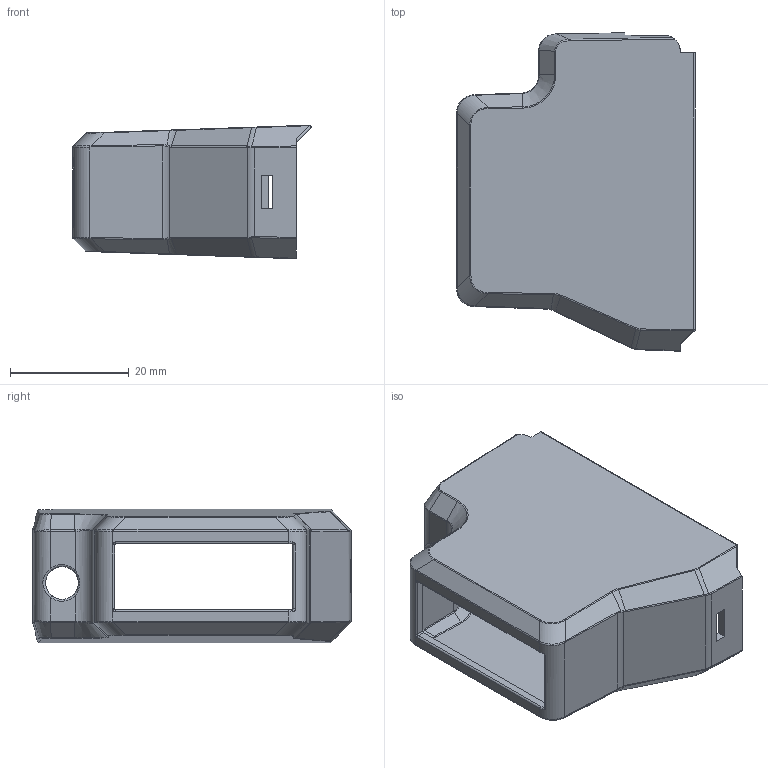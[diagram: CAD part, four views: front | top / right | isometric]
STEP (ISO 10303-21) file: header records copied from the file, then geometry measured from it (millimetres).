
FILE_DESCRIPTION((''),'2;1');
FILE_NAME('3878-0027_RR-BRKOUT-FRONT','2017-01-27T',('AColombo'),(''),'PRO/ENGINEER BY PARAMETRIC TECHNOLOGY CORPORATION, 2011490','PRO/ENGINEER BY PARAMETRIC TECHNOLOGY CORPORATION, 2011490','');
FILE_SCHEMA(('CONFIG_CONTROL_DESIGN'));
Length unit declared in the file: millimetre
Products named in the file (1): 3878-0027_RR-BRKOUT-FRONT
Bounding box: 40.12 x 53.54 x 22.48 mm (x, y, z)
Volume: 7381.1 mm3; surface area: 10438.6 mm2
Topology: 1 solids, 1 shells, 368 faces, 906 edges, 536 vertices
Faces by surface type: cylinder 125, bspline 115, plane 95, cone 15, sphere 13, torus 4, extrusion 1
Entity records: 14655 total; most frequent: CARTESIAN_POINT 6719, ORIENTED_EDGE 1812, DIRECTION 1300, EDGE_CURVE 906, VERTEX_POINT 536, AXIS2_PLACEMENT_3D 466, EDGE_LOOP 372, VECTOR 368
